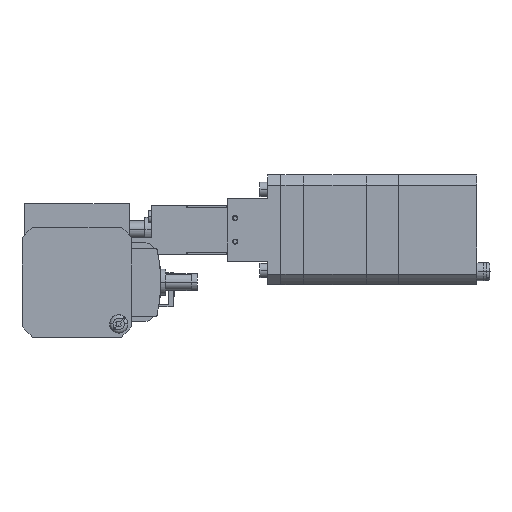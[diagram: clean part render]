
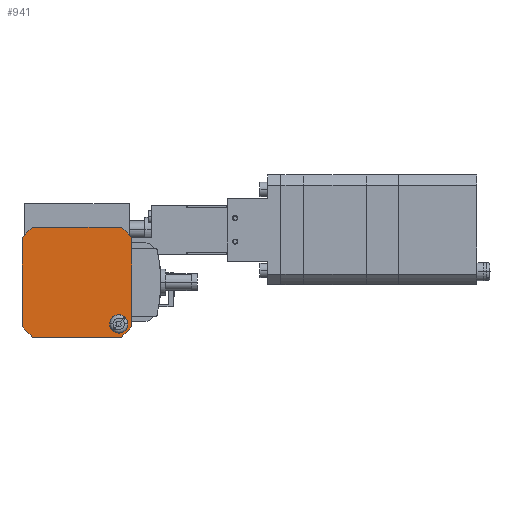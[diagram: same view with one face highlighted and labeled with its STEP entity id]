
A CAD part, left-side view. The second image highlights one B-rep face of the part: STEP entity #941.
In plain terms, the highlighted planar face has unit normal (-1, 0, 0).
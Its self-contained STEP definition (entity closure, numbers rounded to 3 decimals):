
#941=ADVANCED_FACE('',(#2561,#2562),#2563,.T.);
#2561=FACE_BOUND('',#5205,.T.);
#2562=FACE_OUTER_BOUND('',#5206,.T.);
#2563=PLANE('',#5207);
#5205=EDGE_LOOP('',(#9769,#9770));
#5206=EDGE_LOOP('',(#9771,#9772,#9773,#9774,#9775,#9776,#9777,#9778));
#5207=AXIS2_PLACEMENT_3D('',#9779,#9780,#9781);
#9769=ORIENTED_EDGE('',*,*,#17787,.F.);
#9770=ORIENTED_EDGE('',*,*,#17771,.F.);
#9771=ORIENTED_EDGE('',*,*,#17789,.T.);
#9772=ORIENTED_EDGE('',*,*,#17790,.T.);
#9773=ORIENTED_EDGE('',*,*,#17791,.T.);
#9774=ORIENTED_EDGE('',*,*,#17792,.T.);
#9775=ORIENTED_EDGE('',*,*,#17793,.T.);
#9776=ORIENTED_EDGE('',*,*,#17794,.T.);
#9777=ORIENTED_EDGE('',*,*,#17795,.T.);
#9778=ORIENTED_EDGE('',*,*,#17796,.T.);
#9779=CARTESIAN_POINT('',(-153.,0.,10.));
#9780=DIRECTION('',(-1.0,0.,0.));
#9781=DIRECTION('',(0.,0.,-1.0));
#17771=EDGE_CURVE('',#21376,#21372,#21378,.T.);
#17787=EDGE_CURVE('',#21372,#21376,#21403,.T.);
#17789=EDGE_CURVE('',#21405,#21406,#21407,.T.);
#17790=EDGE_CURVE('',#21406,#21408,#21409,.T.);
#17791=EDGE_CURVE('',#21408,#21410,#21411,.T.);
#17792=EDGE_CURVE('',#21410,#21412,#21413,.T.);
#17793=EDGE_CURVE('',#21412,#21414,#21415,.T.);
#17794=EDGE_CURVE('',#21414,#21416,#21417,.T.);
#17795=EDGE_CURVE('',#21416,#21418,#21419,.T.);
#17796=EDGE_CURVE('',#21418,#21405,#21420,.T.);
#21372=VERTEX_POINT('',#26913);
#21376=VERTEX_POINT('',#26918);
#21378=CIRCLE('',#26921,3.5);
#21403=CIRCLE('',#26984,3.5);
#21405=VERTEX_POINT('',#26986);
#21406=VERTEX_POINT('',#26987);
#21407=LINE('',#26988,#26989);
#21408=VERTEX_POINT('',#26990);
#21409=CIRCLE('',#26991,27.);
#21410=VERTEX_POINT('',#26992);
#21411=LINE('',#26993,#26994);
#21412=VERTEX_POINT('',#26995);
#21413=CIRCLE('',#26996,27.);
#21414=VERTEX_POINT('',#26997);
#21415=LINE('',#26998,#26999);
#21416=VERTEX_POINT('',#27000);
#21417=CIRCLE('',#27001,27.);
#21418=VERTEX_POINT('',#27002);
#21419=LINE('',#27003,#27004);
#21420=CIRCLE('',#27005,27.0);
#26913=CARTESIAN_POINT('',(-153.,-12.5,-6.));
#26918=CARTESIAN_POINT('',(-153.,-19.5,-6.));
#26921=AXIS2_PLACEMENT_3D('',#33561,#33562,#33563);
#26984=AXIS2_PLACEMENT_3D('',#33588,#33589,#33590);
#26986=CARTESIAN_POINT('',(-153.,-21.,-6.971));
#26987=CARTESIAN_POINT('',(-153.,-21.,26.971));
#26988=CARTESIAN_POINT('',(-153.,-21.,-6.971));
#26989=VECTOR('',#33594,1000.0);
#26990=CARTESIAN_POINT('',(-153.,-16.971,31.));
#26991=AXIS2_PLACEMENT_3D('',#33595,#33596,#33597);
#26992=CARTESIAN_POINT('',(-153.,16.971,31.));
#26993=CARTESIAN_POINT('',(-153.,-16.971,31.));
#26994=VECTOR('',#33598,1000.0);
#26995=CARTESIAN_POINT('',(-153.,21.,26.971));
#26996=AXIS2_PLACEMENT_3D('',#33599,#33600,#33601);
#26997=CARTESIAN_POINT('',(-153.,21.,-6.971));
#26998=CARTESIAN_POINT('',(-153.,21.,26.971));
#26999=VECTOR('',#33602,1000.0);
#27000=CARTESIAN_POINT('',(-153.,16.971,-11.));
#27001=AXIS2_PLACEMENT_3D('',#33603,#33604,#33605);
#27002=CARTESIAN_POINT('',(-153.,-16.971,-11.));
#27003=CARTESIAN_POINT('',(-153.,16.971,-11.));
#27004=VECTOR('',#33606,1000.0);
#27005=AXIS2_PLACEMENT_3D('',#33607,#33608,#33609);
#33561=CARTESIAN_POINT('',(-153.,-16.,-6.));
#33562=DIRECTION('',(-1.0,0.,0.));
#33563=DIRECTION('',(0.,1.0,0.));
#33588=CARTESIAN_POINT('',(-153.,-16.,-6.));
#33589=DIRECTION('',(-1.0,0.,0.));
#33590=DIRECTION('',(0.,1.0,0.));
#33594=DIRECTION('',(0.,0.,1.0));
#33595=CARTESIAN_POINT('',(-153.,0.,10.));
#33596=DIRECTION('',(-1.0,0.,0.));
#33597=DIRECTION('',(0.,1.0,0.));
#33598=DIRECTION('',(0.,1.0,0.));
#33599=CARTESIAN_POINT('',(-153.,0.,10.));
#33600=DIRECTION('',(-1.0,0.,0.));
#33601=DIRECTION('',(0.,1.0,0.));
#33602=DIRECTION('',(0.,0.,-1.0));
#33603=CARTESIAN_POINT('',(-153.,0.,10.));
#33604=DIRECTION('',(-1.0,0.,0.));
#33605=DIRECTION('',(0.,1.0,0.));
#33606=DIRECTION('',(0.,-1.0,0.));
#33607=CARTESIAN_POINT('',(-153.,0.,10.));
#33608=DIRECTION('',(-1.0,0.,0.));
#33609=DIRECTION('',(0.,1.0,0.));
